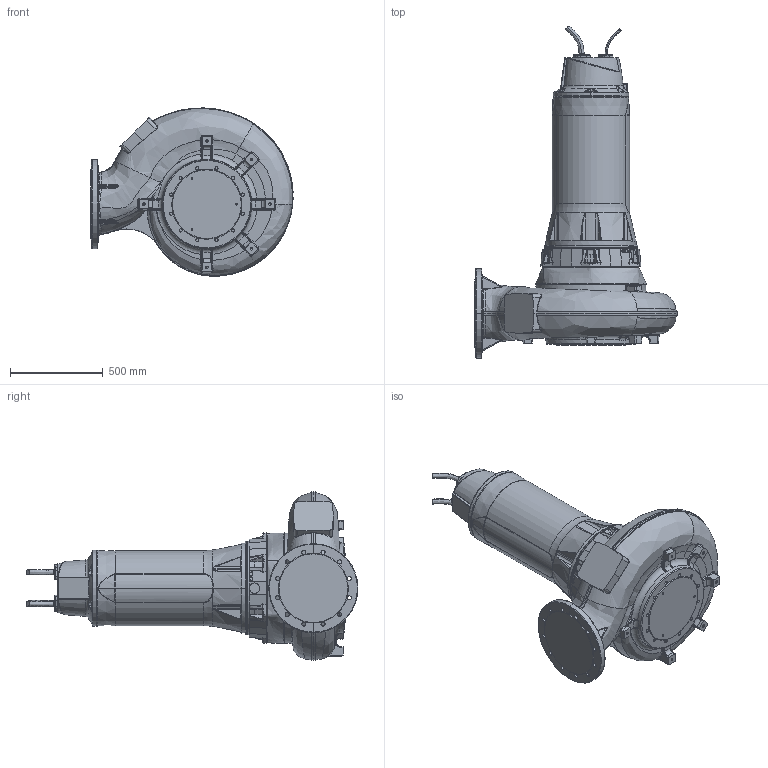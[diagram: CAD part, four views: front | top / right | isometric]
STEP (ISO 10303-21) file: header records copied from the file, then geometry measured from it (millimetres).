
FILE_DESCRIPTION (( 'STEP AP214' ), '1' );
FILE_NAME ('PE5_XFP300M-CH2_MOTOR OK_A_NG2.STEP', '2017-03-09T13:29:51', ( '' ), ( '' ), 'SwSTEP 2.0', 'SolidWorks 2017', '' );
FILE_SCHEMA (( 'AUTOMOTIVE_DESIGN' ));
Length unit declared in the file: millimetre
Products named in the file (1): PE5_XFP300M-CH2_MOTOR OK_A_NG2
Bounding box: 1089.63 x 1788.08 x 906.42 mm (x, y, z)
Volume: 358719077 mm3; surface area: 4160472.5 mm2
Topology: 1 solids, 11 shells, 1657 faces, 4051 edges, 2409 vertices
Faces by surface type: bspline 726, cylinder 366, plane 275, torus 153, cone 116, sphere 21
Entity records: 127847 total; most frequent: CARTESIAN_POINT 76832, ORIENTED_EDGE 7968, DIRECTION 5253, EDGE_CURVE 3984, VERTEX_POINT 2409, AXIS2_PLACEMENT_3D 2197, B_SPLINE_CURVE_WITH_KNOTS 1793, EDGE_LOOP 1745
